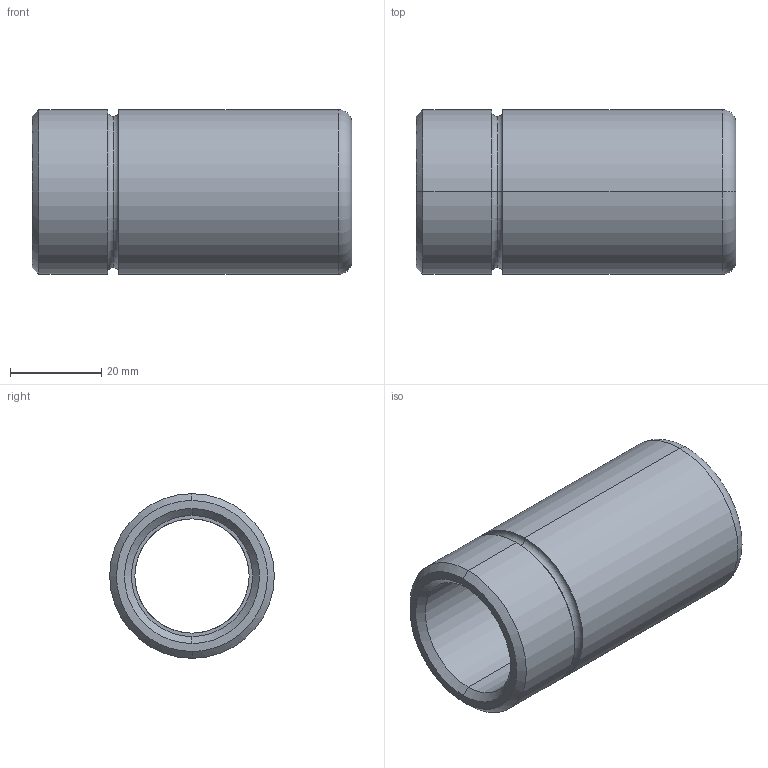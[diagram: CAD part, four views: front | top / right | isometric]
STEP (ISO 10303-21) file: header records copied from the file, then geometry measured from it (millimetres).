
FILE_DESCRIPTION(('CATIA V5 STEP Exchange'),'2;1');
FILE_NAME('C:\Users\Utente\Desktop\IO LAVORO\3D X SITO CF\X SITO\3D files 348\348-25 x 70.stp','2020-12-30T19:56:49+00:00',('none'),('none'),'CATIA Version 5 Release 20 GA (IN-10)','CATIA V5 STEP AP203','none');
FILE_SCHEMA(('CONFIG_CONTROL_DESIGN'));
Length unit declared in the file: millimetre
Products named in the file (1): 348-25 x 70
Bounding box: 70 x 36 x 36 mm (x, y, z)
Volume: 34358.7 mm3; surface area: 14586.9 mm2
Topology: 1 solids, 1 shells, 29 faces, 86 edges, 60 vertices
Faces by surface type: torus 12, cylinder 10, cone 4, plane 3
Entity records: 1154 total; most frequent: CARTESIAN_POINT 344, ORIENTED_EDGE 172, DIRECTION 132, AXIS2_PLACEMENT_3D 90, EDGE_CURVE 86, CIRCLE 60, VERTEX_POINT 60, EDGE_LOOP 32
